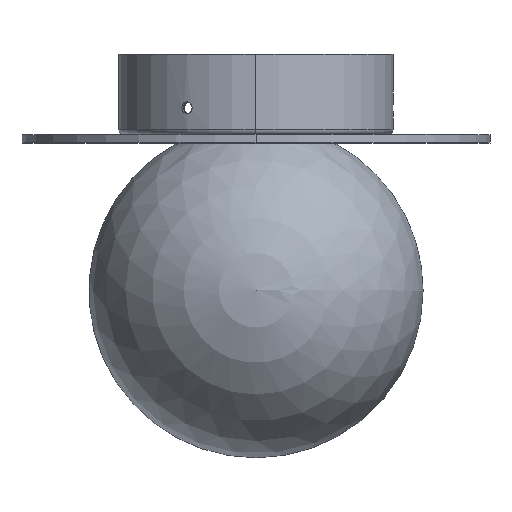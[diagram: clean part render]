
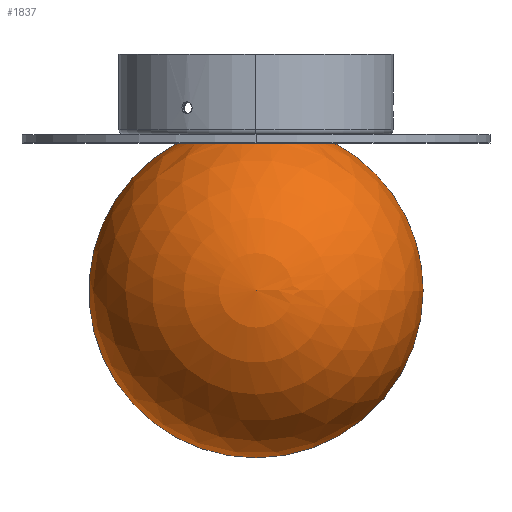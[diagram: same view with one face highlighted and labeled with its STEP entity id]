
A CAD part, top view. The second image highlights one B-rep face of the part: STEP entity #1837.
In plain terms, the highlighted spherical face has radius 50 mm.
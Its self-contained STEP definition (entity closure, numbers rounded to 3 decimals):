
#92 = CIRCLE ( 'NONE', #1102, 24. ) ;
#137 = CARTESIAN_POINT ( 'NONE',  ( 0., 43.863, 0. ) ) ;
#187 = EDGE_LOOP ( 'NONE', ( #1221, #793, #2801 ) ) ;
#306 = CARTESIAN_POINT ( 'NONE',  ( 0., 0., 0. ) ) ;
#372 = AXIS2_PLACEMENT_3D ( 'NONE', #1011, #2535, #1212 ) ;
#464 = DIRECTION ( 'NONE',  ( 0., 0., 1. ) ) ;
#582 = AXIS2_PLACEMENT_3D ( 'NONE', #2443, #464, #2662 ) ;
#636 = CARTESIAN_POINT ( 'NONE',  ( -24., 43.863, 0. ) ) ;
#793 = ORIENTED_EDGE ( 'NONE', *, *, #2614, .T. ) ;
#940 = DIRECTION ( 'NONE',  ( 0., 0., -1. ) ) ;
#1011 = CARTESIAN_POINT ( 'NONE',  ( 0., 0., 0. ) ) ;
#1102 = AXIS2_PLACEMENT_3D ( 'NONE', #137, #2056, #1844 ) ;
#1197 = CARTESIAN_POINT ( 'NONE',  ( 0., -50., 0. ) ) ;
#1212 = DIRECTION ( 'NONE',  ( 1., 0., 0. ) ) ;
#1221 = ORIENTED_EDGE ( 'NONE', *, *, #2207, .F. ) ;
#1375 = DIRECTION ( 'NONE',  ( -1., 0., 0. ) ) ;
#1547 = CARTESIAN_POINT ( 'NONE',  ( 24., 43.863, 0. ) ) ;
#1635 = VERTEX_POINT ( 'NONE', #636 ) ;
#1833 = EDGE_CURVE ( 'NONE', #1635, #1970, #92, .T. ) ;
#1837 = ADVANCED_FACE ( 'NONE', ( #2752 ), #2273, .T. ) ;
#1844 = DIRECTION ( 'NONE',  ( -1., 0., 0. ) ) ;
#1898 = VERTEX_POINT ( 'NONE', #1197 ) ;
#1947 = CIRCLE ( 'NONE', #2452, 50. ) ;
#1970 = VERTEX_POINT ( 'NONE', #1547 ) ;
#2056 = DIRECTION ( 'NONE',  ( 0., 1., 0. ) ) ;
#2207 = EDGE_CURVE ( 'NONE', #1898, #1635, #1947, .T. ) ;
#2273 = SPHERICAL_SURFACE ( 'NONE', #372, 50. ) ;
#2443 = CARTESIAN_POINT ( 'NONE',  ( 0., 0., 0. ) ) ;
#2452 = AXIS2_PLACEMENT_3D ( 'NONE', #306, #940, #1375 ) ;
#2535 = DIRECTION ( 'NONE',  ( 0., 0., -1. ) ) ;
#2614 = EDGE_CURVE ( 'NONE', #1898, #1970, #2642, .T. ) ;
#2642 = CIRCLE ( 'NONE', #582, 50. ) ;
#2662 = DIRECTION ( 'NONE',  ( 1., 0., 0. ) ) ;
#2752 = FACE_OUTER_BOUND ( 'NONE', #187, .T. ) ;
#2801 = ORIENTED_EDGE ( 'NONE', *, *, #1833, .F. ) ;
